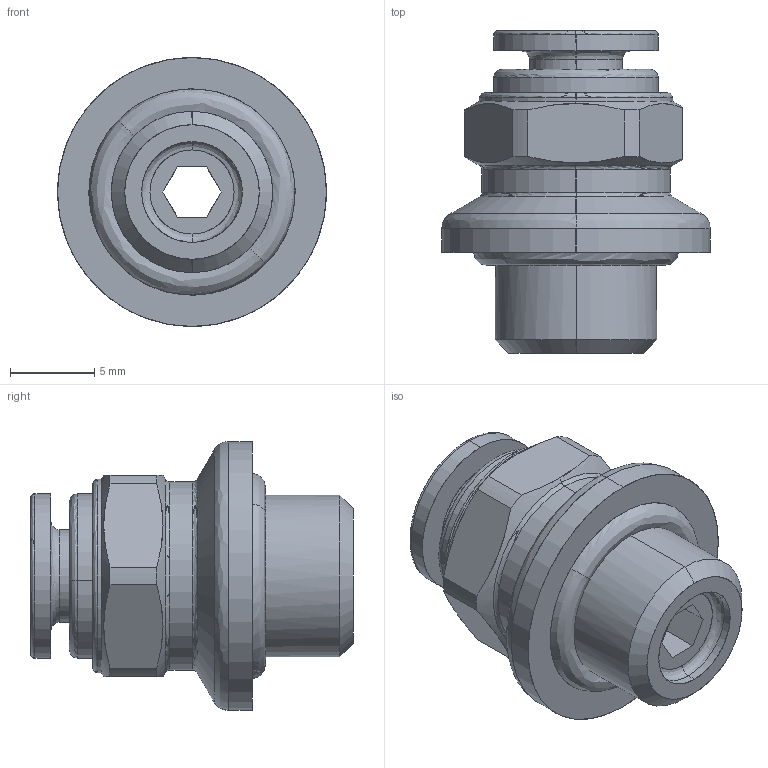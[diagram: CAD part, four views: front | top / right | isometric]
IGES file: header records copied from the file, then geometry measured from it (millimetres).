
Start section: SolidWorks IGES file using analytic representation for surfaces
Global section: file name: K:\Disegni Esecutivi\SERIE 53000\53000 Assiemi\53020\Iges\5302000001A.IGS; native system: SolidWorks 2020; preprocessor: SolidWorks 2020; author: cad06; date: 240405.140317; units: millimetre
Bounding box: 16 x 19.2 x 16 mm (x, y, z)
Surface area: 1345.4 mm2 (no closed solid volume)
Topology: 0 solids, 0 shells, 116 faces, 1196 edges, 1196 vertices
Faces by surface type: bspline 81, revolution 35
